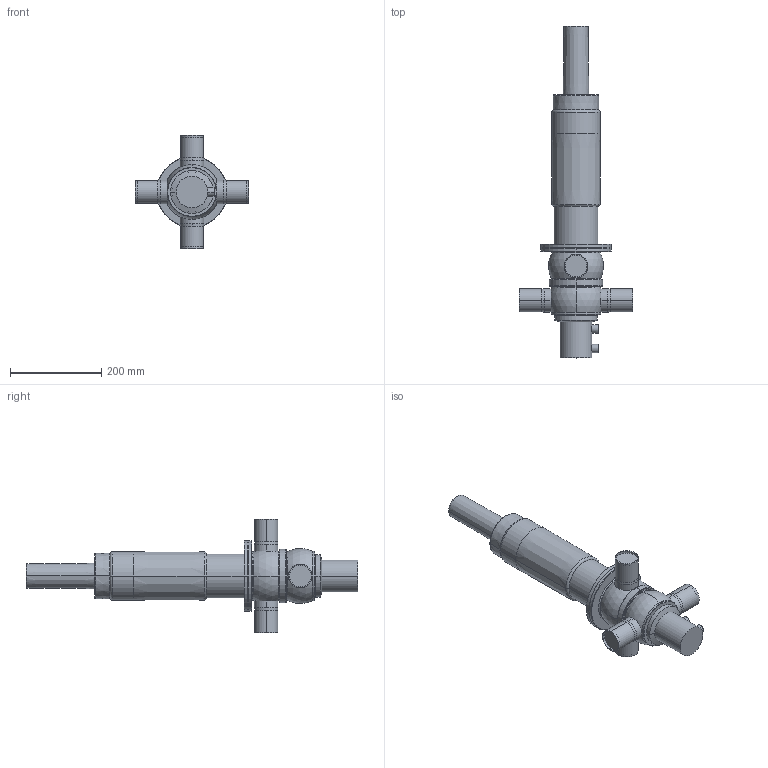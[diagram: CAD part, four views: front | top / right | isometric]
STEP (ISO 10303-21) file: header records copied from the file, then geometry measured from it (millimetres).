
FILE_DESCRIPTION(('Creo Elements/Direct Modeling STEP Export'),'2;1');
FILE_NAME('D44SL-2T_prox..stp','2019-09-04T 8:53:39',(''),(''),'PTC Creo Elements/Direct Modeling STEP processor for AP214 (Solid Model)','PTC Creo Elements/Direct Modeling 19.0B 21-Mar-2015 (C) Parametric Technology GmbH','');
FILE_SCHEMA(('AUTOMOTIVE_DESIGN { 1 0 10303 214 1 1 1 1 }'));
Length unit declared in the file: millimetre
Products named in the file (5): D4_Prox._holder.; actuator_D4SL-100_yoke; drain_pipe-62; housing_D44-2T; D44SL-2T_prox.
Assembly tree (4 placements, depth 2):
  D44SL-2T_prox.
    housing_D44-2T
    drain_pipe-62
    actuator_D4SL-100_yoke
    D4_Prox._holder.
Bounding box: 250 x 729.35 x 250 mm (x, y, z)
Volume: 5862234.2 mm3; surface area: 379312.3 mm2
Topology: 4 solids, 4 shells, 144 faces, 300 edges, 182 vertices
Faces by surface type: cylinder 58, torus 32, plane 28, cone 22, sphere 4
Entity records: 4455 total; most frequent: CARTESIAN_POINT 1478, DIRECTION 606, ORIENTED_EDGE 600, EDGE_CURVE 300, AXIS2_PLACEMENT_3D 263, VERTEX_POINT 182, EDGE_LOOP 162, FACE_OUTER_BOUND 144
